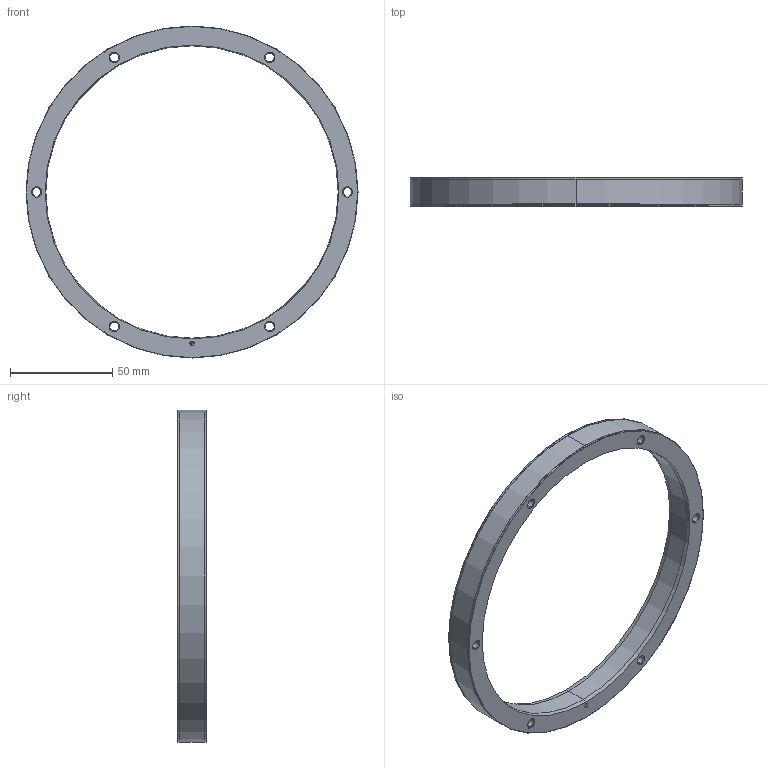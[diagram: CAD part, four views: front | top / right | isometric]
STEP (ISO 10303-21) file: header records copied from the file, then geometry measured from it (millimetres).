
FILE_DESCRIPTION (( 'STEP AP214' ), '1' );
FILE_NAME ('SAR162_exposed.STEP', '2024-02-02T10:29:44', ( '' ), ( '' ), 'SwSTEP 2.0', 'SolidWorks 2022', '' );
FILE_SCHEMA (( 'AUTOMOTIVE_DESIGN' ));
Length unit declared in the file: millimetre
Products named in the file (1): SAR162_exposed
Bounding box: 162.4 x 14 x 162.4 mm (x, y, z)
Volume: 63561.8 mm3; surface area: 23647.3 mm2
Topology: 1 solids, 1 shells, 822 faces, 2225 edges, 1468 vertices
Faces by surface type: plane 650, bspline 86, cylinder 46, cone 32, torus 8
Entity records: 29555 total; most frequent: CARTESIAN_POINT 9226, ORIENTED_EDGE 4442, DIRECTION 3659, EDGE_CURVE 2221, VECTOR 1913, LINE 1913, VERTEX_POINT 1468, EDGE_LOOP 903
